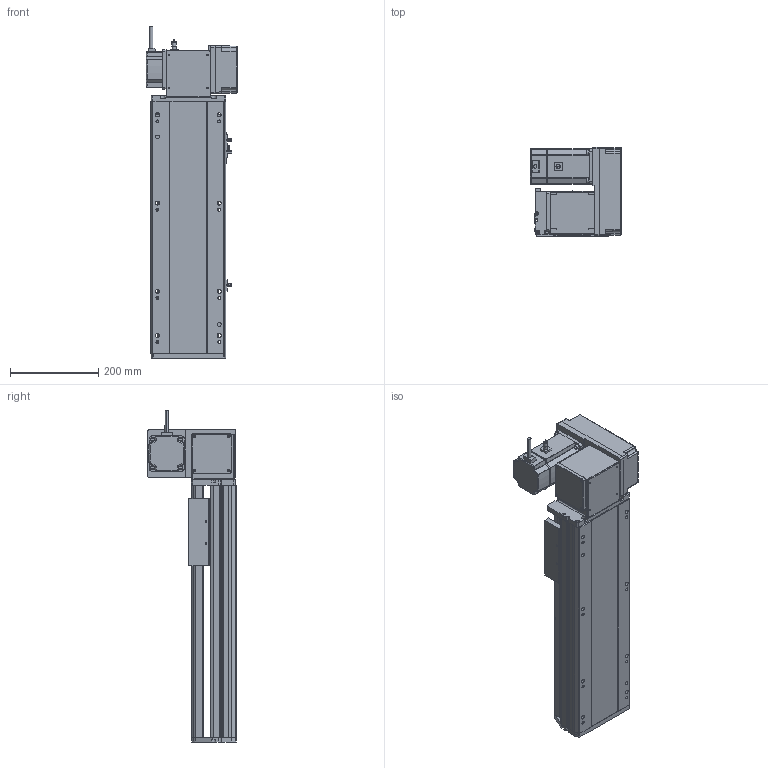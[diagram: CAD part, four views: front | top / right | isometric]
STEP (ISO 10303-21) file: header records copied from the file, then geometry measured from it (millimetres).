
FILE_DESCRIPTION (( 'STEP AP214' ), '1' );
FILE_NAME ('RTB17S-XX-300-RW-M75-C4.STEP', '2025-12-12T02:31:41', ( '' ), ( '' ), 'SwSTEP 2.0', 'SolidWorks 2018', '' );
FILE_SCHEMA (( 'AUTOMOTIVE_DESIGN' ));
Length unit declared in the file: millimetre
Products named in the file (15): RTB22S-GY-017P^RTB17S-RW-々湍釱蚾饜-750W_RTB17S-XX-XX-RW-M75-C4; RTH13-BL-012覜茼え俋离^RTB17S-賑釱_RTB17S-XX-XX-RW-M75-C4; 750W萇儂^RTB17S-XX-XX-RW-M75-C4; RTB22S-GY-008-M75--萇儂啣^RTB17S-RW-々湍釱蚾饜-750W_RTB17S-XX-XX-RW-M75-C4; RTB17S-L-007奻裔^RTB17S-XX-XX-RW-M75-C4; RTB22S-GY-018P^RTB17S-RW-々湍釱蚾饜-750W_RTB17S-XX-XX-RW-M75-C4; EE672^RTB17S-XX-XX-RW-M75-C4; RTB22S-GY-005P^RTB17S-RW-々湍釱蚾饜-750W_RTB17S-XX-XX-RW-M75-C4; RTB17-R-011菁釱^RTB17S-XX-XX-RW-M75-C4; RTB17S-RW-々湍釱蚾饜-750W^RTB17S-XX-XX-RW-M75-C4; RTB17S-L-001-耜醱啣^RTB17S-XX-XX-RW-M75-C4; RTB17S-L-004-賑釱^RTB17S-賑釱_RTB17S-XX-XX-RW-M75-C4; RTB17S-賑釱^RTB17S-XX-XX-RW-M75-C4; RMP17S-L-014-T20-P75--々湍釱^RTB17S-RW-々湍釱蚾饜-750W_RTB17S-XX-XX-RW-M75-C4; RTB17S-XX-300-RW-M75-C4
Assembly tree (17 placements, depth 3):
  RTB17S-XX-300-RW-M75-C4
    RTB17-R-011菁釱^RTB17S-XX-XX-RW-M75-C4
    EE672^RTB17S-XX-XX-RW-M75-C4  x3
    RTB17S-L-001-耜醱啣^RTB17S-XX-XX-RW-M75-C4
    RTB17S-賑釱^RTB17S-XX-XX-RW-M75-C4
      RTB17S-L-004-賑釱^RTB17S-賑釱_RTB17S-XX-XX-RW-M75-C4
      RTH13-BL-012覜茼え俋离^RTB17S-賑釱_RTB17S-XX-XX-RW-M75-C4
    RTB17S-L-007奻裔^RTB17S-XX-XX-RW-M75-C4
    750W萇儂^RTB17S-XX-XX-RW-M75-C4
    RTB17S-RW-々湍釱蚾饜-750W^RTB17S-XX-XX-RW-M75-C4
      RMP17S-L-014-T20-P75--々湍釱^RTB17S-RW-々湍釱蚾饜-750W_RTB17S-XX-XX-RW-M75-C4
      RTB22S-GY-005P^RTB17S-RW-々湍釱蚾饜-750W_RTB17S-XX-XX-RW-M75-C4
      RTB22S-GY-017P^RTB17S-RW-々湍釱蚾饜-750W_RTB17S-XX-XX-RW-M75-C4  x2
      RTB22S-GY-008-M75--萇儂啣^RTB17S-RW-々湍釱蚾饜-750W_RTB17S-XX-XX-RW-M75-C4
      RTB22S-GY-018P^RTB17S-RW-々湍釱蚾饜-750W_RTB17S-XX-XX-RW-M75-C4
Bounding box: 207.4 x 201.5 x 752.2 mm (x, y, z)
Volume: 7822706.8 mm3; surface area: 1211987.9 mm2
Topology: 17 solids, 17 shells, 2041 faces, 5620 edges, 3626 vertices
Faces by surface type: plane 964, cylinder 661, bspline 294, cone 110, sphere 8, torus 4
Entity records: 55798 total; most frequent: CARTESIAN_POINT 16284, ORIENTED_EDGE 8084, DIRECTION 7592, EDGE_CURVE 4042, AXIS2_PLACEMENT_3D 2646, VERTEX_POINT 2630, VECTOR 2300, LINE 2300
